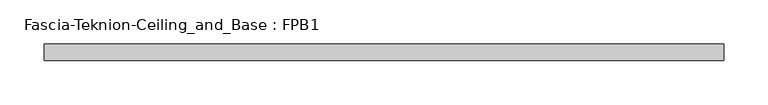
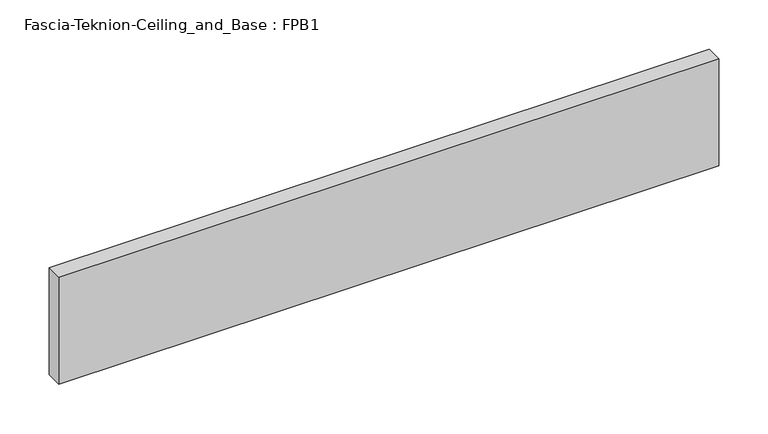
"""IFC4 building model written with IfcOpenShell, lengths in millimetres: proxy geometry, Fascia-Teknion-Ceiling_and_Base : FPB1."""

from ifc_helpers import new_model, si_unit, origin, origin_with_axes, place, context, project, spatial, polyline, outline, extrude, source, transform, mapped, element, save


def fascia_teknion_ceiling_and_base_fpb1_a621ab91(model_context):
    return source(origin(), model_context, "Body", "SweptSolid", [
        extrude(outline(polyline([(385.4152344, 0.0), (385.4152344, -19.05), (-385.4152344, -19.05), (-385.4152344, 0.0), (385.4152344, 0.0)])), origin_with_axes(), (0.0, 0.0, 1.0), 132.08),
    ])


if __name__ == "__main__":
    model = new_model("IFC4")
    model_context = context("Model", 3, world=origin())
    ifc_project = project(units=[si_unit("LENGTHUNIT", "METRE", prefix="MILLI")], contexts=[model_context])
    site = spatial("IfcSite", under=ifc_project)
    building = spatial("IfcBuilding", under=site)
    placement = place(None, origin())
    fascia_teknion_ceiling_and_base_fpb1_shape = fascia_teknion_ceiling_and_base_fpb1_a621ab91(model_context)
    element("IfcBuildingElementProxy", 1, Name="Fascia-Teknion-Ceiling_and_Base : FPB1", ObjectType="Fascia-Teknion-Ceiling_and_Base : FPB1", at=placement, inside=building, context=model_context, shape_type="MappedRepresentation", body=[
        mapped(fascia_teknion_ceiling_and_base_fpb1_shape, transform((0.0, 0.0, 0.0), x_axis=(1.0, 0.0, 0.0), y_axis=(0.0, 1.0, 0.0), z_axis=(0.0, 0.0, 1.0))),
    ])
    save(model, "model.ifc")
